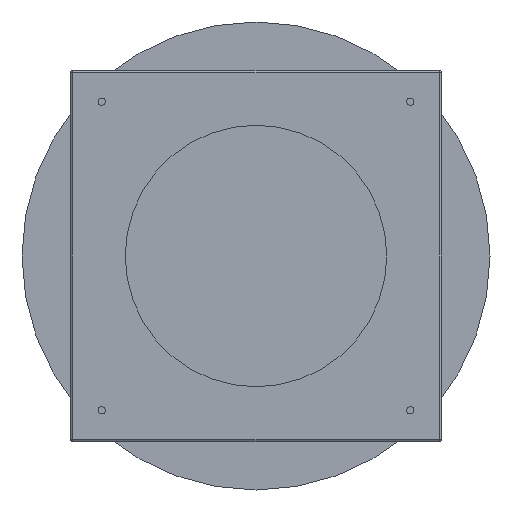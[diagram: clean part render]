
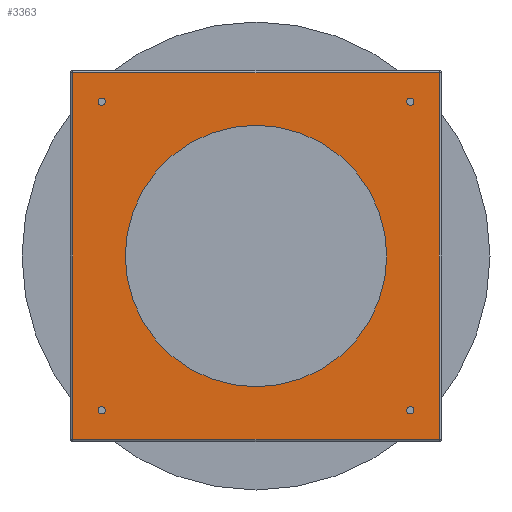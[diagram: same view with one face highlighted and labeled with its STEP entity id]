
A CAD part, front view. The second image highlights one B-rep face of the part: STEP entity #3363.
In plain terms, the highlighted planar face has unit normal (0, -1, 0).
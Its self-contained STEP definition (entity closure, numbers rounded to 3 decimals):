
#3363=ADVANCED_FACE('',(#7243,#7244,#7245,#7246,#7247,#7248),#7249,.F.);
#7243=FACE_BOUND('',#11132,.T.);
#7244=FACE_BOUND('',#11133,.T.);
#7245=FACE_BOUND('',#11134,.T.);
#7246=FACE_BOUND('',#11135,.T.);
#7247=FACE_BOUND('',#11136,.T.);
#7248=FACE_OUTER_BOUND('',#11137,.T.);
#7249=PLANE('',#11138);
#11132=EDGE_LOOP('',(#22290,#22291));
#11133=EDGE_LOOP('',(#22292,#22293));
#11134=EDGE_LOOP('',(#22294,#22295));
#11135=EDGE_LOOP('',(#22296,#22297));
#11136=EDGE_LOOP('',(#22298,#22299));
#11137=EDGE_LOOP('',(#22300,#22301,#22302,#22303));
#11138=AXIS2_PLACEMENT_3D('',#22304,#22305,#22306);
#22290=ORIENTED_EDGE('',*,*,#23564,.T.);
#22291=ORIENTED_EDGE('',*,*,#23531,.T.);
#22292=ORIENTED_EDGE('',*,*,#26782,.T.);
#22293=ORIENTED_EDGE('',*,*,#22405,.T.);
#22294=ORIENTED_EDGE('',*,*,#26785,.T.);
#22295=ORIENTED_EDGE('',*,*,#22400,.T.);
#22296=ORIENTED_EDGE('',*,*,#26788,.T.);
#22297=ORIENTED_EDGE('',*,*,#22395,.T.);
#22298=ORIENTED_EDGE('',*,*,#26791,.T.);
#22299=ORIENTED_EDGE('',*,*,#22390,.T.);
#22300=ORIENTED_EDGE('',*,*,#26799,.F.);
#22301=ORIENTED_EDGE('',*,*,#26805,.T.);
#22302=ORIENTED_EDGE('',*,*,#26811,.T.);
#22303=ORIENTED_EDGE('',*,*,#26839,.F.);
#22304=CARTESIAN_POINT('',(0.0,-205.0,0.0));
#22305=DIRECTION('',(0.0,1.0,0.0));
#22306=DIRECTION('',(0.0,0.0,1.0));
#22390=EDGE_CURVE('',#26879,#26883,#26885,.T.);
#22395=EDGE_CURVE('',#26888,#26892,#26894,.T.);
#22400=EDGE_CURVE('',#26897,#26901,#26903,.T.);
#22405=EDGE_CURVE('',#26906,#26910,#26912,.T.);
#23531=EDGE_CURVE('',#29152,#29156,#29158,.T.);
#23564=EDGE_CURVE('',#29156,#29152,#29204,.T.);
#26782=EDGE_CURVE('',#26910,#26906,#33483,.T.);
#26785=EDGE_CURVE('',#26901,#26897,#33486,.T.);
#26788=EDGE_CURVE('',#26892,#26888,#33489,.T.);
#26791=EDGE_CURVE('',#26883,#26879,#33492,.T.);
#26799=EDGE_CURVE('',#33497,#33503,#33504,.T.);
#26805=EDGE_CURVE('',#33497,#33511,#33513,.T.);
#26811=EDGE_CURVE('',#33511,#33515,#33522,.T.);
#26839=EDGE_CURVE('',#33503,#33515,#33563,.T.);
#26879=VERTEX_POINT('',#33606);
#26883=VERTEX_POINT('',#33611);
#26885=CIRCLE('',#33614,7.0);
#26888=VERTEX_POINT('',#33617);
#26892=VERTEX_POINT('',#33622);
#26894=CIRCLE('',#33625,7.0);
#26897=VERTEX_POINT('',#33628);
#26901=VERTEX_POINT('',#33633);
#26903=CIRCLE('',#33636,7.0);
#26906=VERTEX_POINT('',#33639);
#26910=VERTEX_POINT('',#33644);
#26912=CIRCLE('',#33647,7.0);
#29152=VERTEX_POINT('',#35913);
#29156=VERTEX_POINT('',#35918);
#29158=CIRCLE('',#35921,250.0);
#29204=CIRCLE('',#35971,250.0);
#33483=CIRCLE('',#41310,7.0);
#33486=CIRCLE('',#41313,7.0);
#33489=CIRCLE('',#41316,7.0);
#33492=CIRCLE('',#41319,7.0);
#33497=VERTEX_POINT('',#41324);
#33503=VERTEX_POINT('',#41330);
#33504=LINE('',#41331,#41332);
#33511=VERTEX_POINT('',#41341);
#33513=LINE('',#41343,#41344);
#33515=VERTEX_POINT('',#41346);
#33522=LINE('',#41353,#41354);
#33563=LINE('',#41403,#41404);
#33606=CARTESIAN_POINT('',(-288.0,-205.0,-295.0));
#33611=CARTESIAN_POINT('',(-302.0,-205.0,-295.0));
#33614=AXIS2_PLACEMENT_3D('',#41457,#41458,#41459);
#33617=CARTESIAN_POINT('',(302.0,-205.0,-295.0));
#33622=CARTESIAN_POINT('',(288.0,-205.0,-295.0));
#33625=AXIS2_PLACEMENT_3D('',#41465,#41466,#41467);
#33628=CARTESIAN_POINT('',(302.0,-205.0,295.0));
#33633=CARTESIAN_POINT('',(288.0,-205.0,295.0));
#33636=AXIS2_PLACEMENT_3D('',#41473,#41474,#41475);
#33639=CARTESIAN_POINT('',(-288.0,-205.0,295.0));
#33644=CARTESIAN_POINT('',(-302.0,-205.0,295.0));
#33647=AXIS2_PLACEMENT_3D('',#41481,#41482,#41483);
#35913=CARTESIAN_POINT('',(250.0,-205.0,0.));
#35918=CARTESIAN_POINT('',(-250.0,-205.0,0.));
#35921=AXIS2_PLACEMENT_3D('',#44788,#44789,#44790);
#35971=AXIS2_PLACEMENT_3D('',#44846,#44847,#44848);
#41310=AXIS2_PLACEMENT_3D('',#49176,#49177,#49178);
#41313=AXIS2_PLACEMENT_3D('',#49182,#49183,#49184);
#41316=AXIS2_PLACEMENT_3D('',#49188,#49189,#49190);
#41319=AXIS2_PLACEMENT_3D('',#49194,#49195,#49196);
#41324=CARTESIAN_POINT('',(350.0,-205.0,350.0));
#41330=CARTESIAN_POINT('',(350.0,-205.0,-350.0));
#41331=CARTESIAN_POINT('',(350.0,-205.0,0.0));
#41332=VECTOR('',#49209,1.0);
#41341=CARTESIAN_POINT('',(-350.0,-205.0,350.0));
#41343=CARTESIAN_POINT('',(0.0,-205.0,350.0));
#41344=VECTOR('',#49218,1.0);
#41346=CARTESIAN_POINT('',(-350.0,-205.0,-350.0));
#41353=CARTESIAN_POINT('',(-350.0,-205.0,0.0));
#41354=VECTOR('',#49228,1.0);
#41403=CARTESIAN_POINT('',(0.,-205.0,-350.0));
#41404=VECTOR('',#49273,1.0);
#41457=CARTESIAN_POINT('',(-295.0,-205.0,-295.0));
#41458=DIRECTION('',(-0.0,1.0,0.0));
#41459=DIRECTION('',(1.0,0.0,0.0));
#41465=CARTESIAN_POINT('',(295.0,-205.0,-295.0));
#41466=DIRECTION('',(-0.0,1.0,0.0));
#41467=DIRECTION('',(1.0,0.0,0.0));
#41473=CARTESIAN_POINT('',(295.0,-205.0,295.0));
#41474=DIRECTION('',(-0.0,1.0,0.0));
#41475=DIRECTION('',(1.0,0.0,0.0));
#41481=CARTESIAN_POINT('',(-295.0,-205.0,295.0));
#41482=DIRECTION('',(-0.0,1.0,0.0));
#41483=DIRECTION('',(1.0,0.0,0.0));
#44788=CARTESIAN_POINT('',(0.0,-205.0,0.0));
#44789=DIRECTION('',(-0.0,1.0,0.0));
#44790=DIRECTION('',(1.0,0.0,0.0));
#44846=CARTESIAN_POINT('',(0.0,-205.0,0.0));
#44847=DIRECTION('',(-0.0,1.0,0.0));
#44848=DIRECTION('',(1.0,0.0,0.0));
#49176=CARTESIAN_POINT('',(-295.0,-205.0,295.0));
#49177=DIRECTION('',(-0.0,1.0,0.0));
#49178=DIRECTION('',(1.0,0.0,0.0));
#49182=CARTESIAN_POINT('',(295.0,-205.0,295.0));
#49183=DIRECTION('',(-0.0,1.0,0.0));
#49184=DIRECTION('',(1.0,0.0,0.0));
#49188=CARTESIAN_POINT('',(295.0,-205.0,-295.0));
#49189=DIRECTION('',(-0.0,1.0,0.0));
#49190=DIRECTION('',(1.0,0.0,0.0));
#49194=CARTESIAN_POINT('',(-295.0,-205.0,-295.0));
#49195=DIRECTION('',(-0.0,1.0,0.0));
#49196=DIRECTION('',(1.0,0.0,0.0));
#49209=DIRECTION('',(0.0,0.0,-1.0));
#49218=DIRECTION('',(-1.0,0.,0.));
#49228=DIRECTION('',(0.0,0.0,-1.0));
#49273=DIRECTION('',(-1.0,0.,0.));
